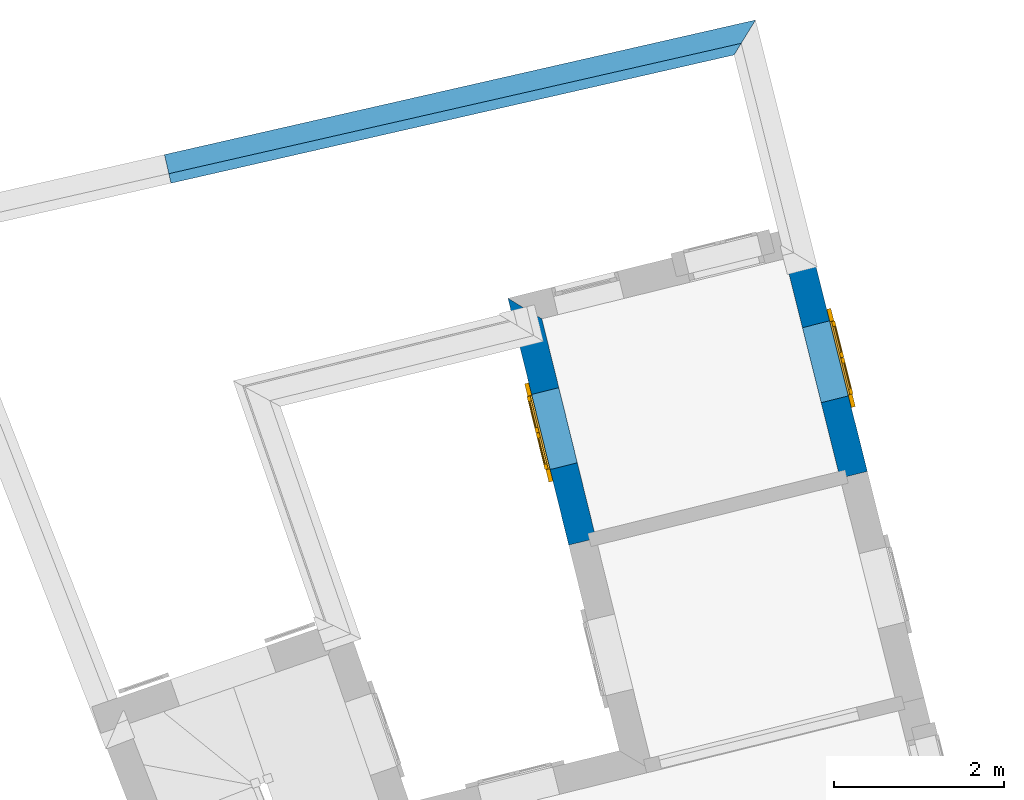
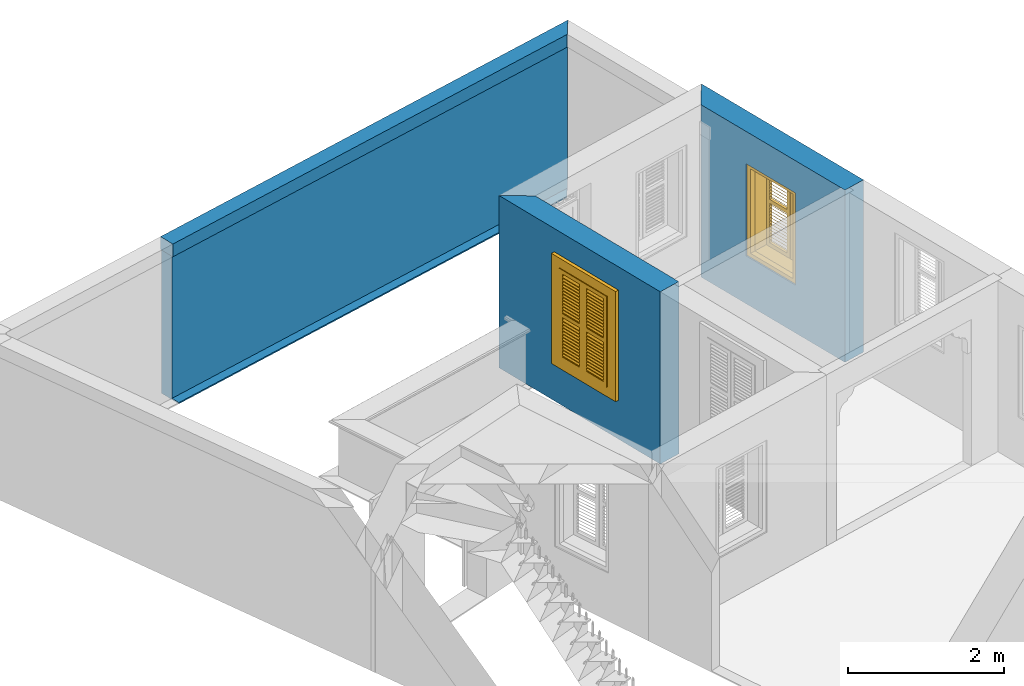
# One storey, part 6 of 8: 4 walls, 2 windows, 2 openings.
"""IFC4 building model written with IfcOpenShell, lengths in metres."""

import ifcopenshell
import ifcopenshell.guid

model = None  # the IFC model being written
_history = None  # IfcOwnerHistory: only IFC2X3 demands one
_inside = {}  # id of a spatial element -> (the spatial element, [elements in it])
_under = {}  # id of a project, library or spatial element -> (it, [spatial elements below it])
_declared = {}  # id of a project -> (the project, [libraries it declares])
_typed = {}  # id of a type object -> (the type object, [elements of that type])
_made_of = {}  # id of a material, layer set ... -> (it, [elements and type objects made of it])


def new_model(schema):
    """Start an empty IFC model of exactly this schema.

    Asked for "IFC4X3", IfcOpenShell would pick the latest addendum, in which some entities
    have other attributes; the version numbers below select the first issue.
    IFC2X3 requires an IfcOwnerHistory on every rooted entity: one is made here for all.
    """
    global model, _history
    if schema == "IFC4X3":
        model = ifcopenshell.file(schema_version=(4, 3, 0, 0))
    else:
        model = ifcopenshell.file(schema=schema)
    _inside.clear()
    _under.clear()
    _declared.clear()
    _typed.clear()
    _made_of.clear()
    _history = None
    if model.schema == "IFC2X3":
        org = make("IfcOrganization", Name="unknown")
        user = make(
            "IfcPersonAndOrganization",
            ThePerson=make("IfcPerson", FamilyName="unknown"),
            TheOrganization=org,
        )
        app = make(
            "IfcApplication",
            ApplicationDeveloper=org,
            Version="unknown",
            ApplicationFullName="unknown",
            ApplicationIdentifier="unknown",
        )
        _history = make(
            "IfcOwnerHistory",
            OwningUser=user,
            OwningApplication=app,
            ChangeAction="ADDED",
            CreationDate=0,
        )
    return model


def make(cls, **values):
    """One entity of the class cls with the attributes given. An attribute that is None is left unset."""
    return model.create_entity(
        cls, **{name: value for name, value in values.items() if value is not None}
    )


def rooted(cls, **values):
    """An entity with a GlobalId (a new one), such as an element, a storey or a relation."""
    return make(cls, GlobalId=ifcopenshell.guid.new(), OwnerHistory=_history, **values)


def si_unit(unit_type, name, prefix=None):
    """IfcSIUnit, for example si_unit("LENGTHUNIT", "METRE", prefix="MILLI")."""
    return make("IfcSIUnit", UnitType=unit_type, Prefix=prefix, Name=name)


def assignment(units):
    """IfcUnitAssignment: the units of a project."""
    return None if units is None else make("IfcUnitAssignment", Units=units)


def point(xyz):
    """IfcCartesianPoint."""
    return None if xyz is None else make("IfcCartesianPoint", Coordinates=xyz)


def direction(xyz):
    """IfcDirection."""
    return None if xyz is None else make("IfcDirection", DirectionRatios=xyz)


def frame(location, z_axis=None, x_axis=None):
    """IfcAxis2Placement3D, a coordinate frame: its origin and axes. An axis left out is left unset."""
    return make(
        "IfcAxis2Placement3D",
        Location=point(location),
        Axis=direction(z_axis),
        RefDirection=direction(x_axis),
    )


def origin():
    """The frame at (0, 0, 0) with its axes left unset."""
    return frame((0.0, 0.0, 0.0))


def origin_with_axes():
    """The frame at (0, 0, 0) with the z axis (0, 0, 1) and the x axis (1, 0, 0) written out."""
    return frame((0.0, 0.0, 0.0), z_axis=(0.0, 0.0, 1.0), x_axis=(1.0, 0.0, 0.0))


def place(relative_to, where):
    """IfcLocalPlacement: puts the frame where relative to a parent placement (None: the world)."""
    return make(
        "IfcLocalPlacement", PlacementRelTo=relative_to, RelativePlacement=where
    )


def context(
    kind, dimensions, precision=None, world=None, true_north=None, identifier=None
):
    """IfcGeometricRepresentationContext, for example the 3D "Model" context."""
    return make(
        "IfcGeometricRepresentationContext",
        ContextIdentifier=identifier,
        ContextType=kind,
        CoordinateSpaceDimension=dimensions,
        Precision=precision,
        WorldCoordinateSystem=world,
        TrueNorth=true_north,
    )


def subcontext(parent, identifier, kind, view, scale=None):
    """IfcGeometricRepresentationSubContext, for example "Body" below "Model"."""
    return make(
        "IfcGeometricRepresentationSubContext",
        ContextIdentifier=identifier,
        ContextType=kind,
        ParentContext=parent,
        TargetScale=scale,
        TargetView=view,
    )


def project(units=None, contexts=None):
    """IfcProject with its units and contexts."""
    return rooted(
        "IfcProject",
        Name="project",
        RepresentationContexts=contexts,
        UnitsInContext=assignment(units),
    )


def spatial(cls, under=None, at=None, **own):
    """A site, building, storey or space (cls), placed at a placement, below another one or the project."""
    s = rooted(cls, ObjectPlacement=at, **own)
    if under is not None:
        _under.setdefault(under.id(), (under, []))[1].append(s)
    return s


def polyline(points):
    """IfcPolyline through the points."""
    return make("IfcPolyline", Points=[point(p) for p in points])


def outline(outer, holes=None, kind="AREA"):
    """IfcArbitraryClosedProfileDef: a profile drawn as a closed curve; with holes, ...WithVoids."""
    if holes is None:
        return make("IfcArbitraryClosedProfileDef", ProfileType=kind, OuterCurve=outer)
    return make(
        "IfcArbitraryProfileDefWithVoids",
        ProfileType=kind,
        OuterCurve=outer,
        InnerCurves=holes,
    )


def extrude(swept, where, along, depth):
    """IfcExtrudedAreaSolid: the profile swept, set in the frame where, extruded along a direction by depth."""
    return make(
        "IfcExtrudedAreaSolid",
        SweptArea=swept,
        Position=where,
        ExtrudedDirection=direction(along),
        Depth=depth,
    )


def clip(a, b, op="DIFFERENCE"):
    """IfcBooleanClippingResult: the solid a cut by the half space b."""
    return make(
        "IfcBooleanClippingResult", Operator=op, FirstOperand=a, SecondOperand=b
    )


def halfspace(plane, agree):
    """IfcHalfSpaceSolid: all space on one side of the plane z = 0 of the frame plane."""
    return make(
        "IfcHalfSpaceSolid",
        BaseSurface=make("IfcPlane", Position=plane),
        AgreementFlag=agree,
    )


def faces_of(points, faces, orient=None, outer=None):
    """IfcFace entities. A face is a list of loops; a loop is a list of indices into points, from 0.

    orient and outer hold one flag for each loop. By default every Orientation is true, the
    first loop of a face is its IfcFaceOuterBound and the others are IfcFaceBound.
    """
    made = []
    for i, loops in enumerate(faces):
        bounds = []
        for j, loop in enumerate(loops):
            is_outer = j == 0 if outer is None else outer[i][j]
            bounds.append(
                make(
                    "IfcFaceOuterBound" if is_outer else "IfcFaceBound",
                    Bound=make("IfcPolyLoop", Polygon=[points[k] for k in loop]),
                    Orientation=True if orient is None else orient[i][j],
                )
            )
        made.append(make("IfcFace", Bounds=bounds))
    return made


def faceted_brep(points, faces, orient=None, outer=None, voids=None):
    """IfcFacetedBrep: a solid bounded by flat faces; with voids (closed shells), ...WithVoids."""
    shared = [point(p) for p in points]
    hull = make("IfcClosedShell", CfsFaces=faces_of(shared, faces, orient, outer))
    if voids is None:
        return make("IfcFacetedBrep", Outer=hull)
    return make(
        "IfcFacetedBrepWithVoids",
        Outer=hull,
        Voids=[
            make(cls, CfsFaces=faces_of(shared, fs, o, b)) for cls, fs, o, b in voids
        ],
    )


def shape(context_of_items, identifier, shape_type, items):
    """IfcShapeRepresentation: the items that make up one representation, for example the "Body"."""
    return make(
        "IfcShapeRepresentation",
        ContextOfItems=context_of_items,
        RepresentationIdentifier=identifier,
        RepresentationType=shape_type,
        Items=items,
    )


def source(mapping_origin, context_of_items, identifier, shape_type, items):
    """IfcRepresentationMap: a shape defined once, which mapped items show again and again."""
    return make(
        "IfcRepresentationMap",
        MappingOrigin=mapping_origin,
        MappedRepresentation=shape(context_of_items, identifier, shape_type, items),
    )


def transform(
    local_origin,
    x_axis=None,
    y_axis=None,
    z_axis=None,
    scale=None,
    scale2=None,
    scale3=None,
    uniform=True,
):
    """IfcCartesianTransformationOperator3D, or its non-uniform kind. x_axis, y_axis, z_axis: its Axis1, 2, 3."""
    if uniform:
        return make(
            "IfcCartesianTransformationOperator3D",
            Axis1=direction(x_axis),
            Axis2=direction(y_axis),
            LocalOrigin=point(local_origin),
            Scale=scale,
            Axis3=direction(z_axis),
        )
    return make(
        "IfcCartesianTransformationOperator3DnonUniform",
        Axis1=direction(x_axis),
        Axis2=direction(y_axis),
        LocalOrigin=point(local_origin),
        Scale=scale,
        Axis3=direction(z_axis),
        Scale2=scale2,
        Scale3=scale3,
    )


def mapped(mapping_source, mapping_target):
    """IfcMappedItem: shows the shape of a source again, moved by a transform."""
    return make(
        "IfcMappedItem", MappingSource=mapping_source, MappingTarget=mapping_target
    )


def material(Name=None, Category=None):
    """IfcMaterial."""
    return make("IfcMaterial", Name=Name, Category=Category)


def layer(
    of_material, thickness, ventilated=None, Name=None, Category=None, Priority=None
):
    """IfcMaterialLayer: one layer of a wall or slab, of a material (None: an air gap)."""
    return make(
        "IfcMaterialLayer",
        Material=of_material,
        LayerThickness=thickness,
        IsVentilated=ventilated,
        Name=Name,
        Category=Category,
        Priority=Priority,
    )


def layer_set(layers, Name=None):
    """IfcMaterialLayerSet."""
    return make("IfcMaterialLayerSet", MaterialLayers=layers, LayerSetName=Name)


def layer_usage(for_layer_set, set_direction, sense, offset, extent=None):
    """IfcMaterialLayerSetUsage: how a layer set lies in its element."""
    return make(
        "IfcMaterialLayerSetUsage",
        ForLayerSet=for_layer_set,
        LayerSetDirection=set_direction,
        DirectionSense=sense,
        OffsetFromReferenceLine=offset,
        ReferenceExtent=extent,
    )


def material_profile(
    of_material, cross_section, Name=None, Category=None, Priority=None
):
    """IfcMaterialProfile: a cross section and its material."""
    return make(
        "IfcMaterialProfile",
        Name=Name,
        Material=of_material,
        Profile=cross_section,
        Priority=Priority,
        Category=Category,
    )


def profile_set(profiles, Name=None, composite=None):
    """IfcMaterialProfileSet."""
    return make(
        "IfcMaterialProfileSet",
        Name=Name,
        MaterialProfiles=profiles,
        CompositeProfile=composite,
    )


def profile_usage(for_profile_set, cardinal=None, extent=None):
    """IfcMaterialProfileSetUsage: how a profile set lies along its element."""
    return make(
        "IfcMaterialProfileSetUsage",
        ForProfileSet=for_profile_set,
        CardinalPoint=cardinal,
        ReferenceExtent=extent,
    )


def made_of(thing, what):
    """Note that an element or type object is made of a material, layer set ...; save() writes the relation."""
    if what is not None:
        _made_of.setdefault(what.id(), (what, []))[1].append(thing)
    return thing


def type_object(cls, material=None, **own):
    """A type object (cls), such as IfcWallType, which elements share."""
    return made_of(rooted(cls, **own), material)


def type_shapes(of_type, sources):
    """Give a type object the sources (RepresentationMaps) that its elements show as mapped items."""
    of_type.RepresentationMaps = sources


def element(
    cls,
    number,
    at=None,
    inside=None,
    cuts=None,
    type_object=None,
    material=None,
    context=None,
    identifier="Body",
    shape_type=None,
    held_by="IfcProductDefinitionShape",
    body=None,
    shapes=None,
    **own,
):
    """One element of the class cls, such as IfcWall. Its Tag is "e" and its number.

    at: its placement. inside: the storey or other place that contains it. cuts: it is an
    opening in that element (IfcRelVoidsElement). A single representation is given by context,
    identifier, shape_type and body (its items); several are given by shapes. held_by: the class
    of the entity that holds the representations. save() writes the other relations.
    """
    e = rooted(cls, Tag="e%d" % number, ObjectPlacement=at, **own)
    if body is not None:
        shapes = [shape(context, identifier, shape_type, body)]
    if shapes is not None:
        e.Representation = make(held_by, Representations=shapes)
    if inside is not None:
        _inside.setdefault(inside.id(), (inside, []))[1].append(e)
    if cuts is not None:
        rooted(
            "IfcRelVoidsElement", RelatingBuildingElement=cuts, RelatedOpeningElement=e
        )
    if type_object is not None:
        _typed.setdefault(type_object.id(), (type_object, []))[1].append(e)
    return made_of(e, material)


def fill(opening, filler):
    """IfcRelFillsElement: the door or window that sits in an opening."""
    return rooted(
        "IfcRelFillsElement",
        RelatingOpeningElement=opening,
        RelatedBuildingElement=filler,
    )


def aggregate(whole, parts):
    """IfcRelAggregates: a whole, such as a stair, and the parts it consists of."""
    return rooted("IfcRelAggregates", RelatingObject=whole, RelatedObjects=parts)


def save(model, path):
    """Write the relations noted so far, then the file.

    IfcRelAggregates (storeys below a building ...), IfcRelContainedInSpatialStructure (elements
    in a storey), IfcRelDefinesByType, IfcRelAssociatesMaterial and IfcRelDeclares: one each for
    every whole, place, type object, material and project.
    """
    for whole, parts in _under.values():
        aggregate(whole, parts)
    for where, things in _inside.values():
        rooted(
            "IfcRelContainedInSpatialStructure",
            RelatedElements=things,
            RelatingStructure=where,
        )
    for kind, things in _typed.values():
        rooted("IfcRelDefinesByType", RelatedObjects=things, RelatingType=kind)
    for what, things in _made_of.values():
        rooted("IfcRelAssociatesMaterial", RelatedObjects=things, RelatingMaterial=what)
    for by, libraries in _declared.values():
        rooted("IfcRelDeclares", RelatingContext=by, RelatedDefinitions=libraries)
    model.write(path)


model = new_model("IFC4")

# Units and contexts
model_context = context("Model", 3, world=origin_with_axes())
body_context = subcontext(model_context, "Body", "Model", "MODEL_VIEW")
ifc_project = project(units=[si_unit("PLANEANGLEUNIT", "RADIAN"), si_unit("MASSUNIT", "GRAM", prefix="KILO"), si_unit("FORCEUNIT", "NEWTON", prefix="KILO"), si_unit("LENGTHUNIT", "METRE"), si_unit("AREAUNIT", "SQUARE_METRE"), si_unit("VOLUMEUNIT", "CUBIC_METRE")], contexts=[model_context, model_context])

# Site, building, storey
site_placement = place(None, origin_with_axes())
site = spatial("IfcSite", under=ifc_project, at=site_placement, Name="Site plot-1", CompositionType="ELEMENT")
building_placement = place(None, origin_with_axes())
building = spatial("IfcBuilding", under=site, at=building_placement, Name="Building plot-1", CompositionType="ELEMENT")
storey_placement = place(None, frame((0.0, 0.0, 2.7), z_axis=(0.0, 0.0, 1.0), x_axis=(1.0, 0.0, 0.0)))
storey = spatial("IfcBuildingStorey", under=building, at=storey_placement, Name="plot-1 1", CompositionType="ELEMENT", Elevation=2.7)

# Wall, opening, window
ifc_material = material(Name="Masonry")
ifc_layer = layer(ifc_material, 0.33, ventilated=False)
ifc_layer_set = layer_set([ifc_layer], Name="exterior_0.08_0.25")
ifc_layer_usage = layer_usage(ifc_layer_set, "AXIS2", "POSITIVE", -0.25)
wall_type_1 = type_object("IfcWallType", Name="exterior_0.08_0.25", PredefinedType="SOLIDWALL", material=ifc_layer_set)
wall_1_placement = place(storey_placement, frame((5.52498277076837, 21.9796889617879, 0.0), z_axis=(0.0, 0.0, 1.0), x_axis=(-0.2429726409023, 0.970033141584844, 0.0)))
wall_1 = element("IfcWall", 1, at=wall_1_placement, inside=storey, type_object=wall_type_1, material=ifc_layer_usage, Name="exterior", context=body_context, shape_type="SweptSolid", body=[
    extrude(outline(polyline([(4.3122422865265e-16, 0.0800000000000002), (-1.26144839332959e-15, -0.25), (2.98995404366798, -0.249999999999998), (2.66122271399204, 0.0800000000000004), (4.3122422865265e-16, 0.0800000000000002)])), origin_with_axes(), (0.0, 0.0, 1.0), 2.7),
])
opening_1_placement = place(wall_1_placement, frame((0.915457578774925, 0.0, 0.75)))
opening_1 = element("IfcOpeningElement", 2, at=opening_1_placement, cuts=wall_1, Name="My Opening", ObjectType="Opening", context=body_context, shape_type="SweptSolid", body=[
    extrude(outline(polyline([(0.0, -0.269999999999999), (0.909999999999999, -0.269999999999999), (0.910000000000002, 1.1), (2.44249065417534e-15, 1.1), (0.0, -0.269999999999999)])), origin_with_axes(), (0.0, 0.0, 1.0), 1.445),
])
window_type = type_object("IfcWindowType", Name="shuttered_shorter", PartitioningType="DOUBLE_PANEL_HORIZONTAL", PredefinedType="NOTDEFINED")
shared_shape = source(origin(), body_context, "Body", "Brep", [
    faceted_brep([(0.393, 0.0, 0.622), (0.074, 0.0, 0.622), (0.074, 0.0, 0.632), (0.393, 0.0, 0.632), (0.074, -0.04, 0.592), (0.393, -0.04, 0.592), (0.393, -0.04, 0.582), (0.074, -0.04, 0.582), (0.517, 0.0, 0.682), (0.836, 0.0, 0.682), (0.836, 0.0, 0.672), (0.517, 0.0, 0.672), (0.517, -0.04, 0.642), (0.836, -0.04, 0.642), (0.836, -0.04, 0.632), (0.517, -0.04, 0.632), (0.517, 0.0, 0.632), (0.836, 0.0, 0.632), (0.836, 0.0, 0.622), (0.517, 0.0, 0.622), (0.517, -0.04, 0.592), (0.836, -0.04, 0.592), (0.836, -0.04, 0.582), (0.517, -0.04, 0.582), (0.517, 0.0, 0.232), (0.836, 0.0, 0.232), (0.836, 0.0, 0.222), (0.517, 0.0, 0.222), (0.517, -0.04, 0.192), (0.836, -0.04, 0.192), (0.836, -0.04, 0.182), (0.517, -0.04, 0.182), (0.517, 0.0, 0.532), (0.836, 0.0, 0.532), (0.836, 0.0, 0.522), (0.517, 0.0, 0.522), (0.517, -0.04, 0.492), (0.836, -0.04, 0.492), (0.836, -0.04, 0.482), (0.517, -0.04, 0.482), (0.517, 0.0, 0.482), (0.836, 0.0, 0.482), (0.836, 0.0, 0.472), (0.517, 0.0, 0.472), (0.517, -0.04, 0.442), (0.836, -0.04, 0.442), (0.836, -0.04, 0.432), (0.517, -0.04, 0.432), (0.517, 0.0, 0.582), (0.836, 0.0, 0.582), (0.836, 0.0, 0.572), (0.517, 0.0, 0.572), (0.517, -0.04, 0.542), (0.836, -0.04, 0.542), (0.836, -0.04, 0.532), (0.517, -0.04, 0.532), (0.517, 0.0, 0.182), (0.836, 0.0, 0.182), (0.836, 0.0, 0.172), (0.517, 0.0, 0.172), (0.517, -0.04, 0.142), (0.836, -0.04, 0.142), (0.836, -0.04, 0.132), (0.517, -0.04, 0.132), (0.517, 0.0, 0.382), (0.836, 0.0, 0.382), (0.836, 0.0, 0.372), (0.517, 0.0, 0.372), (0.517, -0.04, 0.342), (0.836, -0.04, 0.342), (0.836, -0.04, 0.332), (0.517, -0.04, 0.332), (0.517, 0.0, 0.432), (0.836, 0.0, 0.432), (0.836, 0.0, 0.422), (0.517, 0.0, 0.422), (0.517, -0.04, 0.392), (0.836, -0.04, 0.392), (0.836, -0.04, 0.382), (0.517, -0.04, 0.382), (0.517, 0.0, 0.132), (0.836, 0.0, 0.132), (0.836, 0.0, 0.122), (0.517, 0.0, 0.122), (0.517, -0.04, 0.092), (0.836, -0.04, 0.092), (0.836, -0.04, 0.082), (0.517, -0.04, 0.082), (0.517, 0.0, 0.282), (0.836, 0.0, 0.282), (0.836, 0.0, 0.272), (0.517, 0.0, 0.272), (0.517, -0.04, 0.242), (0.836, -0.04, 0.242), (0.836, -0.04, 0.232), (0.517, -0.04, 0.232), (0.517, 0.0, 0.332), (0.836, 0.0, 0.332), (0.836, 0.0, 0.322), (0.517, 0.0, 0.322), (0.517, -0.04, 0.292), (0.836, -0.04, 0.292), (0.836, -0.04, 0.282), (0.517, -0.04, 0.282), (0.517, 0.0, 1.362667), (0.836, 0.0, 1.362667), (0.836, 0.0, 1.352667), (0.517, 0.0, 1.352667), (0.517, -0.04, 1.322667), (0.836, -0.04, 1.322667), (0.836, -0.04, 1.312667), (0.517, -0.04, 1.312667), (0.517, 0.0, 1.312667), (0.836, 0.0, 1.312667), (0.836, 0.0, 1.302667), (0.517, 0.0, 1.302667), (0.517, -0.04, 1.272667), (0.836, -0.04, 1.272667), (0.836, -0.04, 1.262667), (0.517, -0.04, 1.262667), (0.517, 0.0, 0.912667), (0.836, 0.0, 0.912667), (0.836, 0.0, 0.902667), (0.517, 0.0, 0.902667), (0.517, -0.04, 0.872667), (0.836, -0.04, 0.872667), (0.836, -0.04, 0.862667), (0.517, -0.04, 0.862667), (0.517, 0.0, 1.212667), (0.836, 0.0, 1.212667), (0.836, 0.0, 1.202667), (0.517, 0.0, 1.202667), (0.517, -0.04, 1.172667), (0.836, -0.04, 1.172667), (0.836, -0.04, 1.162667), (0.517, -0.04, 1.162667), (0.517, 0.0, 1.162667), (0.836, 0.0, 1.162667), (0.836, 0.0, 1.152667), (0.517, 0.0, 1.152667), (0.517, -0.04, 1.122667), (0.836, -0.04, 1.122667), (0.836, -0.04, 1.112667), (0.517, -0.04, 1.112667), (0.517, 0.0, 1.262667), (0.836, 0.0, 1.262667), (0.836, 0.0, 1.252667), (0.517, 0.0, 1.252667), (0.517, -0.04, 1.222667), (0.836, -0.04, 1.222667), (0.836, -0.04, 1.212667), (0.517, -0.04, 1.212667), (0.517, 0.0, 0.862667), (0.836, 0.0, 0.862667), (0.836, 0.0, 0.852667), (0.517, 0.0, 0.852667), (0.517, -0.04, 0.822667), (0.836, -0.04, 0.822667), (0.836, -0.04, 0.812667), (0.517, -0.04, 0.812667), (0.517, 0.0, 1.062667), (0.836, 0.0, 1.062667), (0.836, 0.0, 1.052667), (0.517, 0.0, 1.052667), (0.517, -0.04, 1.022667), (0.836, -0.04, 1.022667), (0.836, -0.04, 1.012667), (0.517, -0.04, 1.012667), (0.517, 0.0, 1.112667), (0.836, 0.0, 1.112667), (0.836, 0.0, 1.102667), (0.517, 0.0, 1.102667), (0.517, -0.04, 1.072667), (0.836, -0.04, 1.072667), (0.836, -0.04, 1.062667), (0.517, -0.04, 1.062667), (0.517, 0.0, 0.812667), (0.836, 0.0, 0.812667), (0.836, 0.0, 0.802667), (0.517, 0.0, 0.802667), (0.517, -0.04, 0.772667), (0.836, -0.04, 0.772667), (0.836, -0.04, 0.762667), (0.517, -0.04, 0.762667), (0.517, 0.0, 0.962667), (0.836, 0.0, 0.962667), (0.836, 0.0, 0.952667), (0.517, 0.0, 0.952667), (0.517, -0.04, 0.922667), (0.836, -0.04, 0.922667), (0.836, -0.04, 0.912667), (0.517, -0.04, 0.912667), (0.517, 0.0, 1.012667), (0.836, 0.0, 1.012667), (0.836, 0.0, 1.002667), (0.517, 0.0, 1.002667), (0.517, -0.04, 0.972667), (0.836, -0.04, 0.972667), (0.836, -0.04, 0.962667), (0.517, -0.04, 0.962667), (0.074, 0.0, 0.682), (0.393, 0.0, 0.682), (0.393, 0.0, 0.672), (0.074, 0.0, 0.672), (0.074, -0.04, 0.642), (0.393, -0.04, 0.642), (0.393, -0.04, 0.632), (0.074, -0.04, 0.632), (0.074, 0.0, 0.232), (0.393, 0.0, 0.232), (0.393, 0.0, 0.222), (0.074, 0.0, 0.222), (0.074, -0.04, 0.192), (0.393, -0.04, 0.192), (0.393, -0.04, 0.182), (0.074, -0.04, 0.182), (0.074, 0.0, 0.532), (0.393, 0.0, 0.532), (0.393, 0.0, 0.522), (0.074, 0.0, 0.522), (0.074, -0.04, 0.492), (0.393, -0.04, 0.492), (0.393, -0.04, 0.482), (0.074, -0.04, 0.482), (0.074, 0.0, 0.482), (0.393, 0.0, 0.482), (0.393, 0.0, 0.472), (0.074, 0.0, 0.472), (0.074, -0.04, 0.442), (0.393, -0.04, 0.442), (0.393, -0.04, 0.432), (0.074, -0.04, 0.432), (0.074, 0.0, 0.582), (0.393, 0.0, 0.582), (0.393, 0.0, 0.572), (0.074, 0.0, 0.572), (0.074, -0.04, 0.542), (0.393, -0.04, 0.542), (0.393, -0.04, 0.532), (0.074, -0.04, 0.532), (0.074, 0.0, 0.182), (0.393, 0.0, 0.182), (0.393, 0.0, 0.172), (0.074, 0.0, 0.172), (0.074, -0.04, 0.142), (0.393, -0.04, 0.142), (0.393, -0.04, 0.132), (0.074, -0.04, 0.132), (0.074, 0.0, 0.382), (0.393, 0.0, 0.382), (0.393, 0.0, 0.372), (0.074, 0.0, 0.372), (0.074, -0.04, 0.342), (0.393, -0.04, 0.342), (0.393, -0.04, 0.332), (0.074, -0.04, 0.332), (0.074, 0.0, 0.432), (0.393, 0.0, 0.432), (0.393, 0.0, 0.422), (0.074, 0.0, 0.422), (0.074, -0.04, 0.392), (0.393, -0.04, 0.392), (0.393, -0.04, 0.382), (0.074, -0.04, 0.382), (0.074, 0.0, 0.132), (0.393, 0.0, 0.132), (0.393, 0.0, 0.122), (0.074, 0.0, 0.122), (0.074, -0.04, 0.092), (0.393, -0.04, 0.092), (0.393, -0.04, 0.082), (0.074, -0.04, 0.082), (0.074, 0.0, 0.282), (0.393, 0.0, 0.282), (0.393, 0.0, 0.272), (0.074, 0.0, 0.272), (0.074, -0.04, 0.242), (0.393, -0.04, 0.242), (0.393, -0.04, 0.232), (0.074, -0.04, 0.232), (0.074, 0.0, 0.332), (0.393, 0.0, 0.332), (0.393, 0.0, 0.322), (0.074, 0.0, 0.322), (0.074, -0.04, 0.292), (0.393, -0.04, 0.292), (0.393, -0.04, 0.282), (0.074, -0.04, 0.282), (0.074, 0.0, 1.362667), (0.393, 0.0, 1.362667), (0.393, 0.0, 1.352667), (0.074, 0.0, 1.352667), (0.074, -0.04, 1.322667), (0.393, -0.04, 1.322667), (0.393, -0.04, 1.312667), (0.074, -0.04, 1.312667), (0.074, 0.0, 1.312667), (0.393, 0.0, 1.312667), (0.393, 0.0, 1.302667), (0.074, 0.0, 1.302667), (0.074, -0.04, 1.272667), (0.393, -0.04, 1.272667), (0.393, -0.04, 1.262667), (0.074, -0.04, 1.262667), (0.074, 0.0, 0.912667), (0.393, 0.0, 0.912667), (0.393, 0.0, 0.902667), (0.074, 0.0, 0.902667), (0.074, -0.04, 0.872667), (0.393, -0.04, 0.872667), (0.393, -0.04, 0.862667), (0.074, -0.04, 0.862667), (0.074, 0.0, 1.212667), (0.393, 0.0, 1.212667), (0.393, 0.0, 1.202667), (0.074, 0.0, 1.202667), (0.074, -0.04, 1.172667), (0.393, -0.04, 1.172667), (0.393, -0.04, 1.162667), (0.074, -0.04, 1.162667), (0.074, 0.0, 1.162667), (0.393, 0.0, 1.162667), (0.393, 0.0, 1.152667), (0.074, 0.0, 1.152667), (0.074, -0.04, 1.122667), (0.393, -0.04, 1.122667), (0.393, -0.04, 1.112667), (0.074, -0.04, 1.112667), (0.074, 0.0, 1.262667), (0.393, 0.0, 1.262667), (0.393, 0.0, 1.252667), (0.074, 0.0, 1.252667), (0.074, -0.04, 1.222667), (0.393, -0.04, 1.222667), (0.393, -0.04, 1.212667), (0.074, -0.04, 1.212667), (0.074, 0.0, 0.862667), (0.393, 0.0, 0.862667), (0.393, 0.0, 0.852667), (0.074, 0.0, 0.852667), (0.074, -0.04, 0.822667), (0.393, -0.04, 0.822667), (0.393, -0.04, 0.812667), (0.074, -0.04, 0.812667), (0.074, 0.0, 1.062667), (0.393, 0.0, 1.062667), (0.393, 0.0, 1.052667), (0.074, 0.0, 1.052667), (0.074, -0.04, 1.022667), (0.393, -0.04, 1.022667), (0.393, -0.04, 1.012667), (0.074, -0.04, 1.012667), (0.074, 0.0, 1.112667), (0.393, 0.0, 1.112667), (0.393, 0.0, 1.102667), (0.074, 0.0, 1.102667), (0.074, -0.04, 1.072667), (0.393, -0.04, 1.072667), (0.393, -0.04, 1.062667), (0.074, -0.04, 1.062667), (0.074, 0.0, 0.812667), (0.393, 0.0, 0.812667), (0.393, 0.0, 0.802667), (0.074, 0.0, 0.802667), (0.074, -0.04, 0.772667), (0.393, -0.04, 0.772667), (0.393, -0.04, 0.762667), (0.074, -0.04, 0.762667), (0.074, 0.0, 0.962667), (0.393, 0.0, 0.962667), (0.393, 0.0, 0.952667), (0.074, 0.0, 0.952667), (0.074, -0.04, 0.922667), (0.393, -0.04, 0.922667), (0.393, -0.04, 0.912667), (0.074, -0.04, 0.912667), (0.074, 0.0, 1.012667), (0.393, 0.0, 1.012667), (0.393, 0.0, 1.002667), (0.074, 0.0, 1.002667), (0.074, -0.04, 0.972667), (0.393, -0.04, 0.972667), (0.393, -0.04, 0.962667), (0.074, -0.04, 0.962667), (0.517, -0.04, 0.072), (0.457, -0.04, 0.012), (0.896, -0.04, 0.012), (0.836, -0.04, 0.072), (0.457, -0.04, 0.692667), (0.517, -0.04, 0.692667), (0.457, 0.0, 0.012), (0.896, 0.0, 0.012), (0.836, -0.04, 0.692667), (0.896, -0.04, 0.692667), (0.836, 0.0, 0.072), (0.517, 0.0, 0.072), (0.457, 0.0, 0.692667), (0.517, 0.0, 0.692667), (0.517, -0.04, 0.752666), (0.457, -0.04, 0.752666), (0.896, 0.0, 0.692667), (0.836, 0.0, 0.692667), (0.836, -0.04, 0.752666), (0.896, -0.04, 0.752666), (0.457, 0.0, 0.752666), (0.457, -0.04, 1.433333), (0.517, -0.04, 1.373333), (0.896, 0.0, 0.752666), (0.836, -0.04, 1.373333), (0.896, -0.04, 1.433333), (0.457, 0.0, 1.433333), (0.517, 0.0, 0.752666), (0.836, 0.0, 0.752666), (0.517, 0.0, 1.373333), (0.896, 0.0, 1.433333), (0.836, 0.0, 1.373333), (0.074, -0.04, 0.072), (0.014, -0.04, 0.012), (0.453, -0.04, 0.012), (0.393, -0.04, 0.072), (0.014, -0.04, 0.692667), (0.074, -0.04, 0.692667), (0.014, 0.0, 0.012), (0.453, 0.0, 0.012), (0.393, -0.04, 0.692667), (0.453, -0.04, 0.692667), (0.393, 0.0, 0.072), (0.074, 0.0, 0.072), (0.014, 0.0, 0.692667), (0.074, 0.0, 0.692667), (0.074, -0.04, 0.752666), (0.014, -0.04, 0.752666), (0.453, 0.0, 0.692667), (0.393, 0.0, 0.692667), (0.393, -0.04, 0.752666), (0.453, -0.04, 0.752666), (0.014, 0.0, 0.752666), (0.014, -0.04, 1.433333), (0.074, -0.04, 1.373333), (0.453, 0.0, 0.752666), (0.393, -0.04, 1.373333), (0.453, -0.04, 1.433333), (0.014, 0.0, 1.433333), (0.074, 0.0, 0.752666), (0.393, 0.0, 0.752666), (0.074, 0.0, 1.373333), (0.453, 0.0, 1.433333), (0.393, 0.0, 1.373333), (0.0, 0.33, 1.445), (0.91, 0.33, 1.445), (0.85, 0.33, 1.385), (0.06, 0.33, 1.385), (0.91, 0.25, 1.445), (0.0, 0.25, 1.445), (0.91, 0.25, 1.445), (0.85, 0.33, 0.06), (0.91, 0.33, 0.0), (0.85, 0.25, 1.385), (0.06, 0.25, 1.385), (0.0, 0.33, 0.0), (0.06, 0.33, 0.06), (0.0, 0.25, 0.0), (0.91, 0.25, 0.0), (0.85, 0.25, 0.06), (0.06, 0.25, 0.06), (1.05, 0.25, 1.585), (-0.14, 0.25, 1.585), (-0.14, -0.03, 1.585), (1.05, -0.03, 1.585), (0.9, -0.03, 1.435), (0.01, -0.03, 1.435), (0.01, 0.25, 1.435), (0.9, 0.25, 1.435), (0.9, 0.25, 0.01), (0.9, -0.03, 0.01), (1.05, -0.03, -0.14), (1.05, 0.25, -0.14), (0.01, -0.03, 0.01), (0.01, 0.25, 0.01), (-0.14, -0.03, -0.14), (-0.14, 0.25, -0.14)], [[[0, 1, 2, 3]], [[4, 5, 3, 2]], [[5, 6, 0, 3]], [[1, 0, 6, 7]], [[2, 1, 7, 4]], [[5, 4, 7, 6]], [[8, 9, 10, 11]], [[12, 13, 9, 8]], [[13, 14, 10, 9]], [[14, 15, 11, 10]], [[15, 12, 8, 11]], [[13, 12, 15, 14]], [[16, 17, 18, 19]], [[20, 21, 17, 16]], [[21, 22, 18, 17]], [[22, 23, 19, 18]], [[23, 20, 16, 19]], [[21, 20, 23, 22]], [[24, 25, 26, 27]], [[28, 29, 25, 24]], [[29, 30, 26, 25]], [[30, 31, 27, 26]], [[31, 28, 24, 27]], [[29, 28, 31, 30]], [[32, 33, 34, 35]], [[36, 37, 33, 32]], [[37, 38, 34, 33]], [[38, 39, 35, 34]], [[39, 36, 32, 35]], [[37, 36, 39, 38]], [[40, 41, 42, 43]], [[44, 45, 41, 40]], [[45, 46, 42, 41]], [[46, 47, 43, 42]], [[47, 44, 40, 43]], [[45, 44, 47, 46]], [[48, 49, 50, 51]], [[52, 53, 49, 48]], [[53, 54, 50, 49]], [[54, 55, 51, 50]], [[55, 52, 48, 51]], [[53, 52, 55, 54]], [[56, 57, 58, 59]], [[60, 61, 57, 56]], [[61, 62, 58, 57]], [[62, 63, 59, 58]], [[63, 60, 56, 59]], [[61, 60, 63, 62]], [[64, 65, 66, 67]], [[68, 69, 65, 64]], [[69, 70, 66, 65]], [[70, 71, 67, 66]], [[71, 68, 64, 67]], [[69, 68, 71, 70]], [[72, 73, 74, 75]], [[76, 77, 73, 72]], [[77, 78, 74, 73]], [[78, 79, 75, 74]], [[79, 76, 72, 75]], [[77, 76, 79, 78]], [[80, 81, 82, 83]], [[84, 85, 81, 80]], [[85, 86, 82, 81]], [[86, 87, 83, 82]], [[87, 84, 80, 83]], [[85, 84, 87, 86]], [[88, 89, 90, 91]], [[92, 93, 89, 88]], [[93, 94, 90, 89]], [[94, 95, 91, 90]], [[95, 92, 88, 91]], [[93, 92, 95, 94]], [[96, 97, 98, 99]], [[100, 101, 97, 96]], [[101, 102, 98, 97]], [[102, 103, 99, 98]], [[103, 100, 96, 99]], [[101, 100, 103, 102]], [[104, 105, 106, 107]], [[108, 109, 105, 104]], [[109, 110, 106, 105]], [[110, 111, 107, 106]], [[111, 108, 104, 107]], [[109, 108, 111, 110]], [[112, 113, 114, 115]], [[116, 117, 113, 112]], [[117, 118, 114, 113]], [[118, 119, 115, 114]], [[119, 116, 112, 115]], [[117, 116, 119, 118]], [[120, 121, 122, 123]], [[124, 125, 121, 120]], [[125, 126, 122, 121]], [[126, 127, 123, 122]], [[127, 124, 120, 123]], [[125, 124, 127, 126]], [[128, 129, 130, 131]], [[132, 133, 129, 128]], [[133, 134, 130, 129]], [[134, 135, 131, 130]], [[135, 132, 128, 131]], [[133, 132, 135, 134]], [[136, 137, 138, 139]], [[140, 141, 137, 136]], [[141, 142, 138, 137]], [[142, 143, 139, 138]], [[139, 143, 140, 136]], [[141, 140, 143, 142]], [[144, 145, 146, 147]], [[148, 149, 145, 144]], [[149, 150, 146, 145]], [[150, 151, 147, 146]], [[151, 148, 144, 147]], [[149, 148, 151, 150]], [[152, 153, 154, 155]], [[156, 157, 153, 152]], [[157, 158, 154, 153]], [[158, 159, 155, 154]], [[159, 156, 152, 155]], [[157, 156, 159, 158]], [[160, 161, 162, 163]], [[164, 165, 161, 160]], [[165, 166, 162, 161]], [[166, 167, 163, 162]], [[167, 164, 160, 163]], [[165, 164, 167, 166]], [[168, 169, 170, 171]], [[172, 173, 169, 168]], [[173, 174, 170, 169]], [[174, 175, 171, 170]], [[175, 172, 168, 171]], [[173, 172, 175, 174]], [[176, 177, 178, 179]], [[180, 181, 177, 176]], [[181, 182, 178, 177]], [[182, 183, 179, 178]], [[183, 180, 176, 179]], [[181, 180, 183, 182]], [[184, 185, 186, 187]], [[188, 189, 185, 184]], [[189, 190, 186, 185]], [[190, 191, 187, 186]], [[191, 188, 184, 187]], [[189, 188, 191, 190]], [[192, 193, 194, 195]], [[196, 197, 193, 192]], [[197, 198, 194, 193]], [[198, 199, 195, 194]], [[199, 196, 192, 195]], [[197, 196, 199, 198]], [[200, 201, 202, 203]], [[204, 205, 201, 200]], [[205, 206, 202, 201]], [[206, 207, 203, 202]], [[207, 204, 200, 203]], [[205, 204, 207, 206]], [[208, 209, 210, 211]], [[212, 213, 209, 208]], [[213, 214, 210, 209]], [[214, 215, 211, 210]], [[215, 212, 208, 211]], [[213, 212, 215, 214]], [[216, 217, 218, 219]], [[220, 221, 217, 216]], [[221, 222, 218, 217]], [[222, 223, 219, 218]], [[223, 220, 216, 219]], [[221, 220, 223, 222]], [[224, 225, 226, 227]], [[228, 229, 225, 224]], [[229, 230, 226, 225]], [[230, 231, 227, 226]], [[231, 228, 224, 227]], [[229, 228, 231, 230]], [[232, 233, 234, 235]], [[236, 237, 233, 232]], [[237, 238, 234, 233]], [[238, 239, 235, 234]], [[239, 236, 232, 235]], [[237, 236, 239, 238]], [[240, 241, 242, 243]], [[244, 245, 241, 240]], [[245, 246, 242, 241]], [[246, 247, 243, 242]], [[247, 244, 240, 243]], [[245, 244, 247, 246]], [[248, 249, 250, 251]], [[252, 253, 249, 248]], [[253, 254, 250, 249]], [[254, 255, 251, 250]], [[255, 252, 248, 251]], [[253, 252, 255, 254]], [[256, 257, 258, 259]], [[260, 261, 257, 256]], [[261, 262, 258, 257]], [[262, 263, 259, 258]], [[263, 260, 256, 259]], [[261, 260, 263, 262]], [[264, 265, 266, 267]], [[268, 269, 265, 264]], [[269, 270, 266, 265]], [[270, 271, 267, 266]], [[271, 268, 264, 267]], [[269, 268, 271, 270]], [[272, 273, 274, 275]], [[276, 277, 273, 272]], [[277, 278, 274, 273]], [[278, 279, 275, 274]], [[279, 276, 272, 275]], [[277, 276, 279, 278]], [[280, 281, 282, 283]], [[284, 285, 281, 280]], [[285, 286, 282, 281]], [[286, 287, 283, 282]], [[287, 284, 280, 283]], [[285, 284, 287, 286]], [[288, 289, 290, 291]], [[292, 293, 289, 288]], [[293, 294, 290, 289]], [[294, 295, 291, 290]], [[295, 292, 288, 291]], [[293, 292, 295, 294]], [[296, 297, 298, 299]], [[300, 301, 297, 296]], [[301, 302, 298, 297]], [[302, 303, 299, 298]], [[303, 300, 296, 299]], [[301, 300, 303, 302]], [[304, 305, 306, 307]], [[308, 309, 305, 304]], [[309, 310, 306, 305]], [[310, 311, 307, 306]], [[311, 308, 304, 307]], [[309, 308, 311, 310]], [[312, 313, 314, 315]], [[316, 317, 313, 312]], [[317, 318, 314, 313]], [[318, 319, 315, 314]], [[319, 316, 312, 315]], [[317, 316, 319, 318]], [[320, 321, 322, 323]], [[324, 325, 321, 320]], [[325, 326, 322, 321]], [[326, 327, 323, 322]], [[327, 324, 320, 323]], [[325, 324, 327, 326]], [[328, 329, 330, 331]], [[332, 333, 329, 328]], [[333, 334, 330, 329]], [[334, 335, 331, 330]], [[335, 332, 328, 331]], [[333, 332, 335, 334]], [[336, 337, 338, 339]], [[340, 341, 337, 336]], [[341, 342, 338, 337]], [[342, 343, 339, 338]], [[343, 340, 336, 339]], [[341, 340, 343, 342]], [[344, 345, 346, 347]], [[348, 349, 345, 344]], [[349, 350, 346, 345]], [[350, 351, 347, 346]], [[351, 348, 344, 347]], [[349, 348, 351, 350]], [[352, 353, 354, 355]], [[356, 357, 353, 352]], [[357, 358, 354, 353]], [[358, 359, 355, 354]], [[359, 356, 352, 355]], [[357, 356, 359, 358]], [[360, 361, 362, 363]], [[364, 365, 361, 360]], [[365, 366, 362, 361]], [[366, 367, 363, 362]], [[367, 364, 360, 363]], [[365, 364, 367, 366]], [[368, 369, 370, 371]], [[372, 373, 369, 368]], [[373, 374, 370, 369]], [[374, 375, 371, 370]], [[375, 372, 368, 371]], [[373, 372, 375, 374]], [[376, 377, 378, 379]], [[380, 381, 377, 376]], [[381, 382, 378, 377]], [[382, 383, 379, 378]], [[383, 380, 376, 379]], [[381, 380, 383, 382]], [[384, 385, 386, 387]], [[388, 385, 384, 389]], [[390, 391, 386, 385]], [[392, 387, 386, 393]], [[384, 387, 394, 395]], [[390, 385, 388, 396]], [[389, 384, 395, 397]], [[389, 398, 399, 388]], [[390, 395, 394, 391]], [[400, 393, 386, 391]], [[387, 392, 401, 394]], [[402, 392, 393, 403]], [[396, 388, 399, 404]], [[390, 396, 397, 395]], [[392, 389, 397, 401]], [[398, 389, 392, 402]], [[405, 399, 398, 406]], [[394, 401, 400, 391]], [[407, 403, 393, 400]], [[408, 402, 403, 409]], [[404, 399, 405, 410]], [[411, 397, 396, 404]], [[397, 411, 412, 401]], [[398, 402, 412, 411]], [[406, 398, 411, 413]], [[405, 406, 408, 409]], [[401, 412, 407, 400]], [[414, 409, 403, 407]], [[402, 408, 415, 412]], [[405, 409, 414, 410]], [[404, 410, 413, 411]], [[408, 406, 413, 415]], [[412, 415, 414, 407]], [[413, 410, 414, 415]], [[416, 417, 418, 419]], [[420, 417, 416, 421]], [[422, 423, 418, 417]], [[424, 419, 418, 425]], [[416, 419, 426, 427]], [[422, 417, 420, 428]], [[421, 416, 427, 429]], [[421, 430, 431, 420]], [[422, 427, 426, 423]], [[432, 425, 418, 423]], [[419, 424, 433, 426]], [[434, 424, 425, 435]], [[428, 420, 431, 436]], [[422, 428, 429, 427]], [[424, 421, 429, 433]], [[430, 421, 424, 434]], [[437, 431, 430, 438]], [[426, 433, 432, 423]], [[439, 435, 425, 432]], [[440, 434, 435, 441]], [[436, 431, 437, 442]], [[443, 429, 428, 436]], [[429, 443, 444, 433]], [[430, 434, 444, 443]], [[438, 430, 443, 445]], [[437, 438, 440, 441]], [[433, 444, 439, 432]], [[446, 441, 435, 439]], [[434, 440, 447, 444]], [[437, 441, 446, 442]], [[436, 442, 445, 443]], [[440, 438, 445, 447]], [[444, 447, 446, 439]], [[445, 442, 446, 447]], [[448, 449, 450, 451]], [[452, 449, 448]], [[448, 453, 454]], [[448, 454, 452]], [[455, 450, 449, 456]], [[451, 450, 457, 458]], [[459, 448, 451, 460]], [[448, 459, 461, 453]], [[454, 453, 458, 457]], [[462, 452, 454]], [[454, 457, 463]], [[454, 463, 462]], [[456, 449, 452, 462]], [[450, 455, 463, 457]], [[456, 459, 460, 455]], [[460, 451, 458, 464]], [[459, 456, 462, 461]], [[464, 458, 453, 461]], [[461, 462, 463, 464]], [[455, 460, 464, 463]], [[465, 466, 467, 468]], [[469, 470, 471, 472]], [[473, 474, 469, 472]], [[465, 468, 475, 476]], [[470, 477, 478, 471]], [[474, 473, 478, 477]], [[474, 477, 479, 475]], [[470, 467, 479, 477]], [[470, 469, 468, 467]], [[474, 475, 468, 469]], [[471, 478, 480, 466]], [[473, 472, 465, 476]], [[473, 476, 480, 478]], [[466, 465, 472, 471]], [[480, 476, 475, 479]], [[480, 479, 467, 466]]]),
])
type_shapes(window_type, [shared_shape])
window_1_placement = place(storey_placement, frame((5.56446057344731, 22.9333157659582, 0.75), z_axis=(0.0, 0.0, 1.0), x_axis=(-0.221105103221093, 0.882730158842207, 0.0)))
window_1 = element("IfcWindow", 3, at=window_1_placement, inside=storey, type_object=window_type, Name="bedroom outside window", OverallHeight=1.445, OverallWidth=0.91, context=body_context, shape_type="MappedRepresentation", body=[
    mapped(shared_shape, transform((0.0, 0.0, 0.0), scale=1.0)),
])
fill(opening_1, window_1)

wall_2_placement = place(storey_placement, frame((1.84232512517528, 23.8951878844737, 0.0), z_axis=(0.0, 0.0, 1.0), x_axis=(0.239234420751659, -0.970961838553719, 0.0)))
wall_2 = element("IfcWall", 4, at=wall_2_placement, inside=storey, type_object=wall_type_1, material=ifc_layer_usage, Name="exterior", context=body_context, shape_type="SweptSolid", body=[
    extrude(outline(polyline([(0.0800000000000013, 0.0800000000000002), (-0.250000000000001, -0.25), (2.74089482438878, -0.25), (2.74089482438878, 0.0800000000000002), (0.0800000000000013, 0.0800000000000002)])), origin_with_axes(), (0.0, 0.0, 1.0), 2.7),
])
opening_2_placement = place(wall_2_placement, frame((0.915447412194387, 0.0, 0.75)))
opening_2 = element("IfcOpeningElement", 5, at=opening_2_placement, cuts=wall_2, Name="My Opening", ObjectType="Opening", context=body_context, shape_type="SweptSolid", body=[
    extrude(outline(polyline([(0.0, -0.27), (0.910000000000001, -0.27), (0.910000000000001, 1.1), (1.11022302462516e-16, 1.1), (0.0, -0.27)])), origin_with_axes(), (0.0, 0.0, 1.0), 1.445),
])
window_2_placement = place(storey_placement, frame((1.79917196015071, 22.9417300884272, 0.75), z_axis=(0.0, 0.0, 1.0), x_axis=(0.21770332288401, -0.883575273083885, 0.0)))
window_2 = element("IfcWindow", 6, at=window_2_placement, inside=storey, type_object=window_type, Name="bedroom outside window", OverallHeight=1.445, OverallWidth=0.91, context=body_context, shape_type="MappedRepresentation", body=[
    mapped(shared_shape, transform((0.0, 0.0, 0.0), scale=1.0)),
])
fill(opening_2, window_2)

# Walls
ifc_material_profile_1 = material_profile(None, outline(polyline([(0.25, 0.0), (0.25, 2.245), (0.05, 2.245), (0.05, 0.02), (-0.08, 0.02), (-0.08, 0.0), (0.25, 0.0)])))
ifc_profile_set_1 = profile_set([ifc_material_profile_1])
ifc_profile_usage_1 = profile_usage(ifc_profile_set_1)
wall_type_2 = type_object("IfcWallType", Name="parapet street_0", PredefinedType="PARAPET", material=ifc_profile_set_1)
wall_3_placement = place(storey_placement, frame((-3.41608435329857, 25.2864066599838, 0.0), z_axis=(0.975027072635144, 0.22208603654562, 0.0), x_axis=(-0.22208603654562, 0.975027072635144, 0.0)))
element("IfcWall", 7, at=wall_3_placement, inside=storey, type_object=wall_type_2, material=ifc_profile_usage_1, Name="parapet street_0", context=body_context, shape_type="Clipping", body=[
    clip(clip(extrude(outline(polyline([(0.25, 0.0), (0.25, 2.245), (0.05, 2.245), (0.05, 0.02), (-0.08, 0.02), (-0.08, 0.0), (0.25, 0.0)])), origin_with_axes(), (0.0, 0.0, 1.0), 8.87150462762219), halfspace(frame((0.0, 0.0, 7.87150462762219), z_axis=(0.699473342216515, 0.0, -0.714658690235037), x_axis=(0.0, 1.0, 0.0)), True)), halfspace(frame((0.0, 0.0, 1.0), z_axis=(-6.12323399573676e-17, 0.0, -1.0), x_axis=(0.0, 1.0, 0.0)), False)),
])
ifc_material_profile_2 = material_profile(None, outline(polyline([(0.265, 2.245), (0.265, 2.445), (0.035, 2.445), (0.035, 2.245), (0.265, 2.245)])))
ifc_profile_set_2 = profile_set([ifc_material_profile_2])
ifc_profile_usage_2 = profile_usage(ifc_profile_set_2)
wall_type_3 = type_object("IfcWallType", Name="parapet street_1", PredefinedType="PARAPET", material=ifc_profile_set_2)
wall_4_placement = place(storey_placement, frame((-3.41608435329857, 25.2864066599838, 0.0), z_axis=(0.975027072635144, 0.22208603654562, 0.0), x_axis=(-0.22208603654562, 0.975027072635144, 0.0)))
element("IfcWall", 8, at=wall_4_placement, inside=storey, type_object=wall_type_3, material=ifc_profile_usage_2, Name="parapet street_1", context=body_context, shape_type="Clipping", body=[
    clip(clip(extrude(outline(polyline([(0.265, 2.245), (0.265, 2.445), (0.035, 2.445), (0.035, 2.245), (0.265, 2.245)])), origin_with_axes(), (0.0, 0.0, 1.0), 8.87150462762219), halfspace(frame((0.0, 0.0, 7.87150462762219), z_axis=(0.699473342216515, 0.0, -0.714658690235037), x_axis=(0.0, 1.0, 0.0)), True)), halfspace(frame((0.0, 0.0, 1.0), z_axis=(-6.12323399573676e-17, 0.0, -1.0), x_axis=(0.0, 1.0, 0.0)), False)),
])

save(model, "model.ifc")
